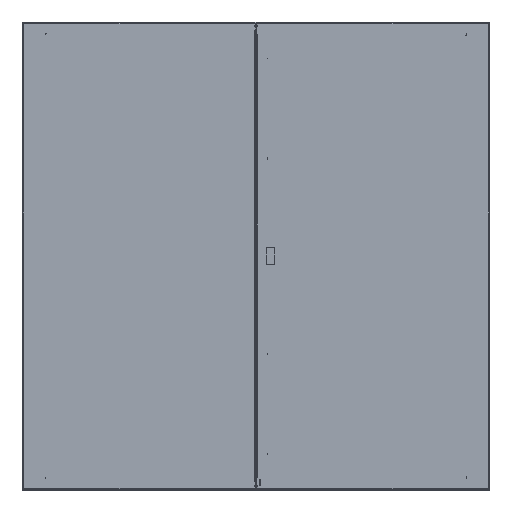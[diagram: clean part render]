
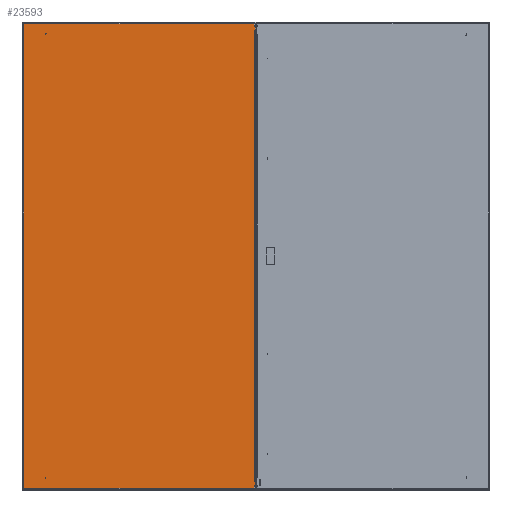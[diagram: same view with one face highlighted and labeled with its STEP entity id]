
A CAD part, top view. The second image highlights one B-rep face of the part: STEP entity #23593.
In plain terms, the highlighted planar face has unit normal (0, 0, 1).
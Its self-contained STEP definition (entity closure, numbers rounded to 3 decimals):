
#332 = CARTESIAN_POINT ( 'NONE',  ( 347.5, 697.5, 1.35 ) ) ;
#362 = CARTESIAN_POINT ( 'NONE',  ( 345.15, -675.25, 1.35 ) ) ;
#368 = VECTOR ( 'NONE', #9271, 1000. ) ;
#955 = LINE ( 'NONE', #22226, #24395 ) ;
#1004 = VERTEX_POINT ( 'NONE', #28947 ) ;
#1008 = CARTESIAN_POINT ( 'NONE',  ( 347.5, -686.5, 1.35 ) ) ;
#1316 = VECTOR ( 'NONE', #33216, 1000. ) ;
#1539 = VECTOR ( 'NONE', #2939, 1000. ) ;
#2032 = VERTEX_POINT ( 'NONE', #12667 ) ;
#2219 = EDGE_CURVE ( 'NONE', #9468, #34993, #7887, .T. ) ;
#2345 = CARTESIAN_POINT ( 'NONE',  ( 347.5, 695.15, 1.35 ) ) ;
#2619 = EDGE_CURVE ( 'NONE', #2032, #2941, #10506, .T. ) ;
#2709 = EDGE_CURVE ( 'NONE', #1004, #10526, #34424, .T. ) ;
#2784 = DIRECTION ( 'NONE',  ( 1., 0., 0. ) ) ;
#2939 = DIRECTION ( 'NONE',  ( 0., 1., 0. ) ) ;
#2941 = VERTEX_POINT ( 'NONE', #28364 ) ;
#3064 = VECTOR ( 'NONE', #2784, 1000. ) ;
#3266 = VERTEX_POINT ( 'NONE', #22166 ) ;
#3526 = EDGE_CURVE ( 'NONE', #7782, #33064, #5770, .T. ) ;
#3628 = LINE ( 'NONE', #11969, #1316 ) ;
#4303 = ORIENTED_EDGE ( 'NONE', *, *, #3526, .T. ) ;
#4626 = CARTESIAN_POINT ( 'NONE',  ( -345.15, -695.15, 1.35 ) ) ;
#5076 = LINE ( 'NONE', #26868, #3064 ) ;
#5273 = ORIENTED_EDGE ( 'NONE', *, *, #2709, .T. ) ;
#5755 = ORIENTED_EDGE ( 'NONE', *, *, #2619, .T. ) ;
#5770 = LINE ( 'NONE', #27200, #1539 ) ;
#6130 = VECTOR ( 'NONE', #31691, 1000. ) ;
#6280 = VERTEX_POINT ( 'NONE', #19741 ) ;
#6665 = ORIENTED_EDGE ( 'NONE', *, *, #15680, .F. ) ;
#7779 = ORIENTED_EDGE ( 'NONE', *, *, #34772, .T. ) ;
#7782 = VERTEX_POINT ( 'NONE', #1008 ) ;
#7887 = LINE ( 'NONE', #31624, #18893 ) ;
#8054 = ORIENTED_EDGE ( 'NONE', *, *, #34635, .T. ) ;
#8169 = VECTOR ( 'NONE', #34232, 1000. ) ;
#9271 = DIRECTION ( 'NONE',  ( 1., 0., 0. ) ) ;
#9468 = VERTEX_POINT ( 'NONE', #14244 ) ;
#10467 = CARTESIAN_POINT ( 'NONE',  ( 345.15, -675.25, 1.35 ) ) ;
#10506 = LINE ( 'NONE', #13154, #11569 ) ;
#10526 = VERTEX_POINT ( 'NONE', #27535 ) ;
#10899 = ORIENTED_EDGE ( 'NONE', *, *, #20490, .F. ) ;
#11488 = DIRECTION ( 'NONE',  ( 0., 0., -1. ) ) ;
#11569 = VECTOR ( 'NONE', #28911, 1000. ) ;
#11763 = DIRECTION ( 'NONE',  ( -1., 0., 0. ) ) ;
#11969 = CARTESIAN_POINT ( 'NONE',  ( -345.15, 696.115, 1.35 ) ) ;
#12643 = VECTOR ( 'NONE', #21627, 1000. ) ;
#12667 = CARTESIAN_POINT ( 'NONE',  ( 347.5, 675.25, 1.35 ) ) ;
#12734 = CARTESIAN_POINT ( 'NONE',  ( 345.15, 686.5, 1.35 ) ) ;
#13154 = CARTESIAN_POINT ( 'NONE',  ( 347.5, -697.5, 1.35 ) ) ;
#14244 = CARTESIAN_POINT ( 'NONE',  ( 345.15, -695.15, 1.35 ) ) ;
#14867 = EDGE_CURVE ( 'NONE', #2032, #3266, #25745, .T. ) ;
#14903 = ORIENTED_EDGE ( 'NONE', *, *, #14867, .F. ) ;
#14917 = VERTEX_POINT ( 'NONE', #4626 ) ;
#15326 = DIRECTION ( 'NONE',  ( 1., 0., 0. ) ) ;
#15680 = EDGE_CURVE ( 'NONE', #32811, #33064, #30684, .T. ) ;
#16562 = VECTOR ( 'NONE', #15326, 1000. ) ;
#16973 = FACE_OUTER_BOUND ( 'NONE', #28367, .T. ) ;
#18893 = VECTOR ( 'NONE', #21179, 1000. ) ;
#19307 = LINE ( 'NONE', #362, #12643 ) ;
#19741 = CARTESIAN_POINT ( 'NONE',  ( 345.15, 686.5, 1.35 ) ) ;
#20207 = VECTOR ( 'NONE', #28224, 1000. ) ;
#20300 = PLANE ( 'NONE',  #33696 ) ;
#20387 = LINE ( 'NONE', #12734, #6130 ) ;
#20490 = EDGE_CURVE ( 'NONE', #6280, #2941, #5076, .T. ) ;
#20855 = LINE ( 'NONE', #34293, #16562 ) ;
#21179 = DIRECTION ( 'NONE',  ( 0., 1., 0. ) ) ;
#21627 = DIRECTION ( 'NONE',  ( 0., 1., 0. ) ) ;
#21958 = ORIENTED_EDGE ( 'NONE', *, *, #32981, .T. ) ;
#22166 = CARTESIAN_POINT ( 'NONE',  ( 345.15, 675.25, 1.35 ) ) ;
#22226 = CARTESIAN_POINT ( 'NONE',  ( 347.5, -686.5, 1.35 ) ) ;
#22678 = ORIENTED_EDGE ( 'NONE', *, *, #28088, .T. ) ;
#23593 = ADVANCED_FACE ( 'OUT_FRONT_CB', ( #16973 ), #20300, .F. ) ;
#23670 = CARTESIAN_POINT ( 'NONE',  ( 345.15, -686.5, 1.35 ) ) ;
#24395 = VECTOR ( 'NONE', #11763, 1000. ) ;
#25745 = LINE ( 'NONE', #31198, #20207 ) ;
#26726 = ORIENTED_EDGE ( 'NONE', *, *, #2219, .T. ) ;
#26868 = CARTESIAN_POINT ( 'NONE',  ( 347.5, 686.5, 1.35 ) ) ;
#27200 = CARTESIAN_POINT ( 'NONE',  ( 347.5, -697.5, 1.35 ) ) ;
#27535 = CARTESIAN_POINT ( 'NONE',  ( -345.15, 695.15, 1.35 ) ) ;
#27776 = DIRECTION ( 'NONE',  ( -1., 0., 0. ) ) ;
#28043 = CARTESIAN_POINT ( 'NONE',  ( 347.5, -675.25, 1.35 ) ) ;
#28088 = EDGE_CURVE ( 'NONE', #6280, #1004, #20387, .T. ) ;
#28224 = DIRECTION ( 'NONE',  ( -1., 0., 0. ) ) ;
#28364 = CARTESIAN_POINT ( 'NONE',  ( 347.5, 686.5, 1.35 ) ) ;
#28367 = EDGE_LOOP ( 'NONE', ( #26726, #32203, #4303, #6665, #21958, #14903, #5755, #10899, #22678, #5273, #7779, #8054 ) ) ;
#28911 = DIRECTION ( 'NONE',  ( 0., 1., 0. ) ) ;
#28947 = CARTESIAN_POINT ( 'NONE',  ( 345.15, 695.15, 1.35 ) ) ;
#30499 = EDGE_CURVE ( 'NONE', #7782, #34993, #955, .T. ) ;
#30684 = LINE ( 'NONE', #28043, #368 ) ;
#31149 = CARTESIAN_POINT ( 'NONE',  ( 347.5, -675.25, 1.35 ) ) ;
#31198 = CARTESIAN_POINT ( 'NONE',  ( 347.5, 675.25, 1.35 ) ) ;
#31624 = CARTESIAN_POINT ( 'NONE',  ( 345.15, -695.15, 1.35 ) ) ;
#31691 = DIRECTION ( 'NONE',  ( 0., 1., 0. ) ) ;
#32203 = ORIENTED_EDGE ( 'NONE', *, *, #30499, .F. ) ;
#32811 = VERTEX_POINT ( 'NONE', #10467 ) ;
#32981 = EDGE_CURVE ( 'NONE', #32811, #3266, #19307, .T. ) ;
#33064 = VERTEX_POINT ( 'NONE', #31149 ) ;
#33216 = DIRECTION ( 'NONE',  ( 0., -1., 0. ) ) ;
#33696 = AXIS2_PLACEMENT_3D ( 'NONE', #332, #11488, #27776 ) ;
#34232 = DIRECTION ( 'NONE',  ( -1., 0., 0. ) ) ;
#34293 = CARTESIAN_POINT ( 'NONE',  ( -346.115, -695.15, 1.35 ) ) ;
#34424 = LINE ( 'NONE', #2345, #8169 ) ;
#34635 = EDGE_CURVE ( 'NONE', #14917, #9468, #20855, .T. ) ;
#34772 = EDGE_CURVE ( 'NONE', #10526, #14917, #3628, .T. ) ;
#34993 = VERTEX_POINT ( 'NONE', #23670 ) ;
